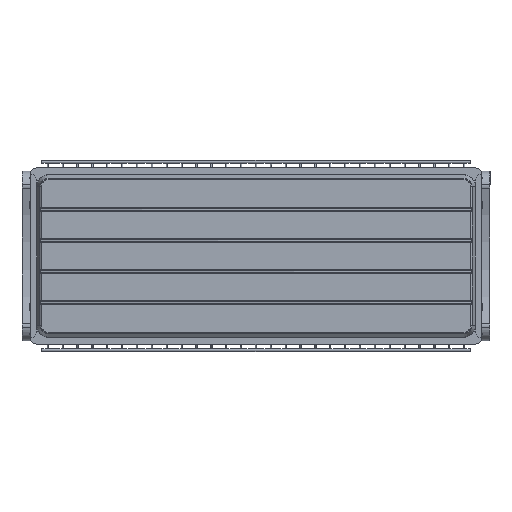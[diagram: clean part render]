
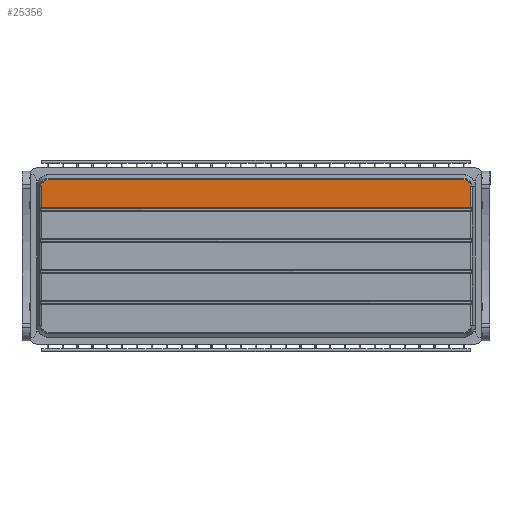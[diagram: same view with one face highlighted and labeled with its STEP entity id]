
A CAD part, front view. The second image highlights one B-rep face of the part: STEP entity #25356.
In plain terms, the highlighted planar face has unit normal (0, -1, 0).
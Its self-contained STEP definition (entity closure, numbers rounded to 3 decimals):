
#1229=PLANE('',#26956);
#1944=FACE_OUTER_BOUND('',#3113,.T.);
#3113=EDGE_LOOP('',(#18813,#18814,#18815,#18816,#18817,#18818));
#4540=LINE('',#46182,#5532);
#4542=LINE('',#46206,#5534);
#4543=LINE('',#46227,#5535);
#4545=LINE('',#46236,#5537);
#5532=VECTOR('',#31737,10.);
#5534=VECTOR('',#31741,10.);
#5535=VECTOR('',#31754,10.);
#5537=VECTOR('',#31766,10.);
#6478=CIRCLE('',#26939,9.591);
#6482=CIRCLE('',#26945,9.591);
#9607=VERTEX_POINT('',#46179);
#9608=VERTEX_POINT('',#46181);
#9611=VERTEX_POINT('',#46205);
#9613=VERTEX_POINT('',#46219);
#9615=VERTEX_POINT('',#46225);
#9617=VERTEX_POINT('',#46231);
#13123=EDGE_CURVE('',#9607,#9608,#4540,.T.);
#13127=EDGE_CURVE('',#9608,#9611,#4542,.T.);
#13130=EDGE_CURVE('',#9613,#9607,#6478,.T.);
#13133=EDGE_CURVE('',#9615,#9613,#4543,.T.);
#13136=EDGE_CURVE('',#9617,#9615,#6482,.T.);
#13138=EDGE_CURVE('',#9611,#9617,#4545,.T.);
#18813=ORIENTED_EDGE('',*,*,#13123,.F.);
#18814=ORIENTED_EDGE('',*,*,#13130,.F.);
#18815=ORIENTED_EDGE('',*,*,#13133,.F.);
#18816=ORIENTED_EDGE('',*,*,#13136,.F.);
#18817=ORIENTED_EDGE('',*,*,#13138,.F.);
#18818=ORIENTED_EDGE('',*,*,#13127,.F.);
#25356=ADVANCED_FACE('',(#1944),#1229,.F.);
#26939=AXIS2_PLACEMENT_3D('',#46221,#31746,#31747);
#26945=AXIS2_PLACEMENT_3D('',#46233,#31760,#31761);
#26956=AXIS2_PLACEMENT_3D('',#46277,#31794,#31795);
#31737=DIRECTION('',(1.,0.,0.));
#31741=DIRECTION('',(0.,0.,-1.));
#31746=DIRECTION('center_axis',(0.,1.,0.));
#31747=DIRECTION('ref_axis',(-0.707,0.,0.707));
#31754=DIRECTION('',(0.,0.,1.));
#31760=DIRECTION('center_axis',(0.,1.,0.));
#31761=DIRECTION('ref_axis',(-0.707,0.,-0.707));
#31766=DIRECTION('',(-1.,0.,0.));
#31794=DIRECTION('center_axis',(0.,1.,0.));
#31795=DIRECTION('ref_axis',(0.,0.,1.));
#46179=CARTESIAN_POINT('',(-224.,-14.5,-16.409));
#46181=CARTESIAN_POINT('',(-193.828,-14.5,-16.409));
#46182=CARTESIAN_POINT('',(-75.5,-14.5,-16.409));
#46205=CARTESIAN_POINT('',(-193.828,-14.5,-625.591));
#46206=CARTESIAN_POINT('',(-193.828,-14.5,-632.));
#46219=CARTESIAN_POINT('',(-233.591,-14.5,-26.));
#46221=CARTESIAN_POINT('Origin',(-224.,-14.5,-26.));
#46225=CARTESIAN_POINT('',(-233.591,-14.5,-616.));
#46227=CARTESIAN_POINT('',(-233.591,-14.5,-173.5));
#46231=CARTESIAN_POINT('',(-224.,-14.5,-625.591));
#46233=CARTESIAN_POINT('Origin',(-224.,-14.5,-616.));
#46236=CARTESIAN_POINT('',(-174.5,-14.5,-625.591));
#46277=CARTESIAN_POINT('Origin',(-125.,-14.5,-321.));
